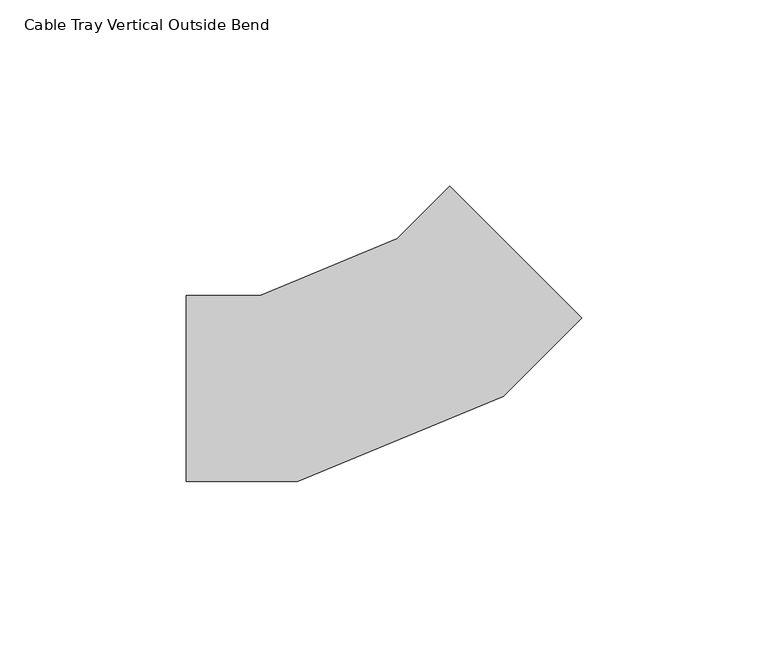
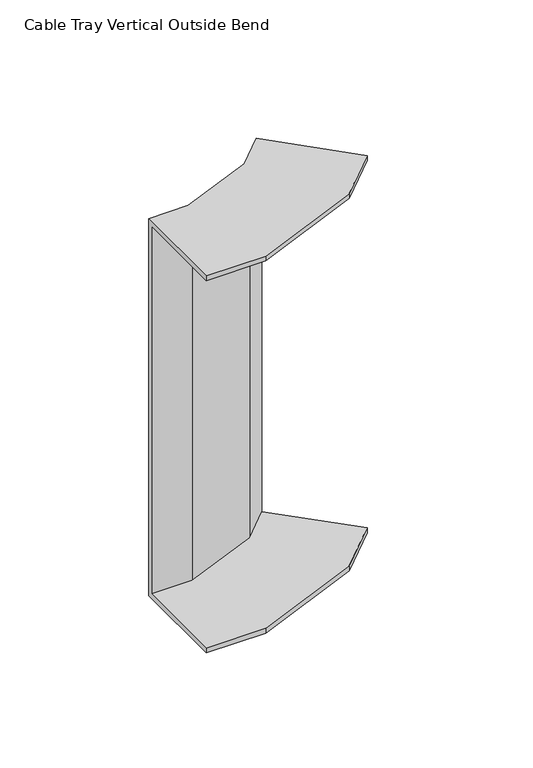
"""IFC4 building model written with IfcOpenShell, lengths in millimetres: cable carrier fitting geometry, Cable Tray Vertical Outside Bend : ELEC_SUB_CT_N2402."""

import ifcopenshell
import ifcopenshell.guid

model = None  # the IFC model being written
_history = None  # IfcOwnerHistory: only IFC2X3 demands one
_inside = {}  # id of a spatial element -> (the spatial element, [elements in it])
_under = {}  # id of a project, library or spatial element -> (it, [spatial elements below it])
_declared = {}  # id of a project -> (the project, [libraries it declares])
_typed = {}  # id of a type object -> (the type object, [elements of that type])
_made_of = {}  # id of a material, layer set ... -> (it, [elements and type objects made of it])


def new_model(schema):
    """Start an empty IFC model of exactly this schema.

    Asked for "IFC4X3", IfcOpenShell would pick the latest addendum, in which some entities
    have other attributes; the version numbers below select the first issue.
    IFC2X3 requires an IfcOwnerHistory on every rooted entity: one is made here for all.
    """
    global model, _history
    if schema == "IFC4X3":
        model = ifcopenshell.file(schema_version=(4, 3, 0, 0))
    else:
        model = ifcopenshell.file(schema=schema)
    _inside.clear()
    _under.clear()
    _declared.clear()
    _typed.clear()
    _made_of.clear()
    _history = None
    if model.schema == "IFC2X3":
        org = make("IfcOrganization", Name="unknown")
        user = make(
            "IfcPersonAndOrganization",
            ThePerson=make("IfcPerson", FamilyName="unknown"),
            TheOrganization=org,
        )
        app = make(
            "IfcApplication",
            ApplicationDeveloper=org,
            Version="unknown",
            ApplicationFullName="unknown",
            ApplicationIdentifier="unknown",
        )
        _history = make(
            "IfcOwnerHistory",
            OwningUser=user,
            OwningApplication=app,
            ChangeAction="ADDED",
            CreationDate=0,
        )
    return model


def make(cls, **values):
    """One entity of the class cls with the attributes given. An attribute that is None is left unset."""
    return model.create_entity(
        cls, **{name: value for name, value in values.items() if value is not None}
    )


def rooted(cls, **values):
    """An entity with a GlobalId (a new one), such as an element, a storey or a relation."""
    return make(cls, GlobalId=ifcopenshell.guid.new(), OwnerHistory=_history, **values)


def si_unit(unit_type, name, prefix=None):
    """IfcSIUnit, for example si_unit("LENGTHUNIT", "METRE", prefix="MILLI")."""
    return make("IfcSIUnit", UnitType=unit_type, Prefix=prefix, Name=name)


def assignment(units):
    """IfcUnitAssignment: the units of a project."""
    return None if units is None else make("IfcUnitAssignment", Units=units)


def point(xyz):
    """IfcCartesianPoint."""
    return None if xyz is None else make("IfcCartesianPoint", Coordinates=xyz)


def direction(xyz):
    """IfcDirection."""
    return None if xyz is None else make("IfcDirection", DirectionRatios=xyz)


def frame(location, z_axis=None, x_axis=None):
    """IfcAxis2Placement3D, a coordinate frame: its origin and axes. An axis left out is left unset."""
    return make(
        "IfcAxis2Placement3D",
        Location=point(location),
        Axis=direction(z_axis),
        RefDirection=direction(x_axis),
    )


def origin():
    """The frame at (0, 0, 0) with its axes left unset."""
    return frame((0.0, 0.0, 0.0))


def place(relative_to, where):
    """IfcLocalPlacement: puts the frame where relative to a parent placement (None: the world)."""
    return make(
        "IfcLocalPlacement", PlacementRelTo=relative_to, RelativePlacement=where
    )


def context(
    kind, dimensions, precision=None, world=None, true_north=None, identifier=None
):
    """IfcGeometricRepresentationContext, for example the 3D "Model" context."""
    return make(
        "IfcGeometricRepresentationContext",
        ContextIdentifier=identifier,
        ContextType=kind,
        CoordinateSpaceDimension=dimensions,
        Precision=precision,
        WorldCoordinateSystem=world,
        TrueNorth=true_north,
    )


def project(units=None, contexts=None):
    """IfcProject with its units and contexts."""
    return rooted(
        "IfcProject",
        Name="project",
        RepresentationContexts=contexts,
        UnitsInContext=assignment(units),
    )


def spatial(cls, under=None, at=None, **own):
    """A site, building, storey or space (cls), placed at a placement, below another one or the project."""
    s = rooted(cls, ObjectPlacement=at, **own)
    if under is not None:
        _under.setdefault(under.id(), (under, []))[1].append(s)
    return s


def faces_of(points, faces, orient=None, outer=None):
    """IfcFace entities. A face is a list of loops; a loop is a list of indices into points, from 0.

    orient and outer hold one flag for each loop. By default every Orientation is true, the
    first loop of a face is its IfcFaceOuterBound and the others are IfcFaceBound.
    """
    made = []
    for i, loops in enumerate(faces):
        bounds = []
        for j, loop in enumerate(loops):
            is_outer = j == 0 if outer is None else outer[i][j]
            bounds.append(
                make(
                    "IfcFaceOuterBound" if is_outer else "IfcFaceBound",
                    Bound=make("IfcPolyLoop", Polygon=[points[k] for k in loop]),
                    Orientation=True if orient is None else orient[i][j],
                )
            )
        made.append(make("IfcFace", Bounds=bounds))
    return made


def faceted_brep(points, faces, orient=None, outer=None, voids=None):
    """IfcFacetedBrep: a solid bounded by flat faces; with voids (closed shells), ...WithVoids."""
    shared = [point(p) for p in points]
    hull = make("IfcClosedShell", CfsFaces=faces_of(shared, faces, orient, outer))
    if voids is None:
        return make("IfcFacetedBrep", Outer=hull)
    return make(
        "IfcFacetedBrepWithVoids",
        Outer=hull,
        Voids=[
            make(cls, CfsFaces=faces_of(shared, fs, o, b)) for cls, fs, o, b in voids
        ],
    )


def shape(context_of_items, identifier, shape_type, items):
    """IfcShapeRepresentation: the items that make up one representation, for example the "Body"."""
    return make(
        "IfcShapeRepresentation",
        ContextOfItems=context_of_items,
        RepresentationIdentifier=identifier,
        RepresentationType=shape_type,
        Items=items,
    )


def source(mapping_origin, context_of_items, identifier, shape_type, items):
    """IfcRepresentationMap: a shape defined once, which mapped items show again and again."""
    return make(
        "IfcRepresentationMap",
        MappingOrigin=mapping_origin,
        MappedRepresentation=shape(context_of_items, identifier, shape_type, items),
    )


def transform(
    local_origin,
    x_axis=None,
    y_axis=None,
    z_axis=None,
    scale=None,
    scale2=None,
    scale3=None,
    uniform=True,
):
    """IfcCartesianTransformationOperator3D, or its non-uniform kind. x_axis, y_axis, z_axis: its Axis1, 2, 3."""
    if uniform:
        return make(
            "IfcCartesianTransformationOperator3D",
            Axis1=direction(x_axis),
            Axis2=direction(y_axis),
            LocalOrigin=point(local_origin),
            Scale=scale,
            Axis3=direction(z_axis),
        )
    return make(
        "IfcCartesianTransformationOperator3DnonUniform",
        Axis1=direction(x_axis),
        Axis2=direction(y_axis),
        LocalOrigin=point(local_origin),
        Scale=scale,
        Axis3=direction(z_axis),
        Scale2=scale2,
        Scale3=scale3,
    )


def mapped(mapping_source, mapping_target):
    """IfcMappedItem: shows the shape of a source again, moved by a transform."""
    return make(
        "IfcMappedItem", MappingSource=mapping_source, MappingTarget=mapping_target
    )


def made_of(thing, what):
    """Note that an element or type object is made of a material, layer set ...; save() writes the relation."""
    if what is not None:
        _made_of.setdefault(what.id(), (what, []))[1].append(thing)
    return thing


def element(
    cls,
    number,
    at=None,
    inside=None,
    cuts=None,
    type_object=None,
    material=None,
    context=None,
    identifier="Body",
    shape_type=None,
    held_by="IfcProductDefinitionShape",
    body=None,
    shapes=None,
    **own,
):
    """One element of the class cls, such as IfcWall. Its Tag is "e" and its number.

    at: its placement. inside: the storey or other place that contains it. cuts: it is an
    opening in that element (IfcRelVoidsElement). A single representation is given by context,
    identifier, shape_type and body (its items); several are given by shapes. held_by: the class
    of the entity that holds the representations. save() writes the other relations.
    """
    e = rooted(cls, Tag="e%d" % number, ObjectPlacement=at, **own)
    if body is not None:
        shapes = [shape(context, identifier, shape_type, body)]
    if shapes is not None:
        e.Representation = make(held_by, Representations=shapes)
    if inside is not None:
        _inside.setdefault(inside.id(), (inside, []))[1].append(e)
    if cuts is not None:
        rooted(
            "IfcRelVoidsElement", RelatingBuildingElement=cuts, RelatedOpeningElement=e
        )
    if type_object is not None:
        _typed.setdefault(type_object.id(), (type_object, []))[1].append(e)
    return made_of(e, material)


def aggregate(whole, parts):
    """IfcRelAggregates: a whole, such as a stair, and the parts it consists of."""
    return rooted("IfcRelAggregates", RelatingObject=whole, RelatedObjects=parts)


def save(model, path):
    """Write the relations noted so far, then the file.

    IfcRelAggregates (storeys below a building ...), IfcRelContainedInSpatialStructure (elements
    in a storey), IfcRelDefinesByType, IfcRelAssociatesMaterial and IfcRelDeclares: one each for
    every whole, place, type object, material and project.
    """
    for whole, parts in _under.values():
        aggregate(whole, parts)
    for where, things in _inside.values():
        rooted(
            "IfcRelContainedInSpatialStructure",
            RelatedElements=things,
            RelatingStructure=where,
        )
    for kind, things in _typed.values():
        rooted("IfcRelDefinesByType", RelatedObjects=things, RelatingType=kind)
    for what, things in _made_of.values():
        rooted("IfcRelAssociatesMaterial", RelatedObjects=things, RelatingMaterial=what)
    for by, libraries in _declared.values():
        rooted("IfcRelDeclares", RelatingContext=by, RelatedDefinitions=libraries)
    model.write(path)


def cable_tray_vertical_outside_bend_15fc6071(model_context):
    return source(origin(), model_context, "Body", "Brep", [
        faceted_brep([(-51.7766957, -25.0, 100.0), (-51.7766957, 25.0, 100.0), (-51.7766957, 25.0, -100.0), (-51.7766957, -25.0, -100.0), (-51.7766957, -25.0, -97.46), (-51.7766957, 22.46, -97.46), (-51.7766957, 22.46, 97.46), (-51.7766957, -25.0, 97.46), (54.2893221, 18.9339834, 100.0), (54.2893221, 18.9339834, 97.46), (20.730034, 52.4932711, 97.46), (20.730034, 52.4932711, -97.46), (54.2893221, 18.9339834, -97.46), (54.2893221, 18.9339834, -100.0), (18.9339828, 54.2893223, -100.0), (18.9339828, 54.2893223, 100.0), (-21.9398404, -25.0, 100.0), (33.1914794, -2.1638594, 100.0), (4.8687544, 40.2240937, 100.0), (-31.8854588, 25.0, 100.0), (-31.8854588, 25.0, -100.0), (4.8687544, 40.2240937, -100.0), (33.1914794, -2.1638594, -100.0), (-21.9398404, -25.0, -100.0), (-21.9398404, -25.0, -97.46), (33.1914794, -2.1638594, -97.46), (6.3075488, 38.0707857, -97.46), (-31.3802214, 22.46, -97.46), (-31.3802214, 22.46, 97.46), (6.3075488, 38.0707857, 97.46), (33.1914794, -2.1638594, 97.46), (-21.9398404, -25.0, 97.46)], [[[0, 1, 2, 3, 4, 5, 6, 7]], [[8, 9, 10, 11, 12, 13, 14, 15]], [[1, 0, 16, 17, 8, 15, 18, 19]], [[2, 1, 19, 20]], [[3, 2, 20, 21, 14, 13, 22, 23]], [[4, 3, 23, 24]], [[5, 4, 24, 25, 12, 11, 26, 27]], [[6, 5, 27, 28]], [[7, 6, 28, 29, 10, 9, 30, 31]], [[0, 7, 31, 16]], [[20, 19, 18, 21]], [[24, 23, 22, 25]], [[28, 27, 26, 29]], [[16, 31, 30, 17]], [[21, 18, 15, 14]], [[25, 22, 13, 12]], [[29, 26, 11, 10]], [[17, 30, 9, 8]]]),
    ])


if __name__ == "__main__":
    model = new_model("IFC4")
    model_context = context("Model", 3, world=origin())
    ifc_project = project(units=[si_unit("LENGTHUNIT", "METRE", prefix="MILLI")], contexts=[model_context])
    site = spatial("IfcSite", under=ifc_project)
    building = spatial("IfcBuilding", under=site)
    placement = place(None, origin())
    cable_tray_vertical_outside_bend_shape = cable_tray_vertical_outside_bend_15fc6071(model_context)
    element("IfcCableCarrierFitting", 1, ObjectType="Cable Tray Vertical Outside Bend : ELEC_SUB_CT_N2402", at=placement, inside=building, context=model_context, shape_type="MappedRepresentation", body=[
        mapped(cable_tray_vertical_outside_bend_shape, transform((0.0, 0.0, 0.0), x_axis=(1.0, 0.0, 0.0), y_axis=(0.0, 1.0, 0.0), z_axis=(0.0, 0.0, 1.0))),
    ])
    save(model, "model.ifc")
